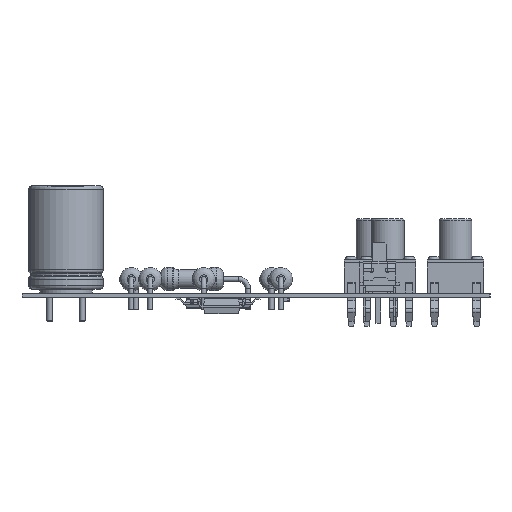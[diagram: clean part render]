
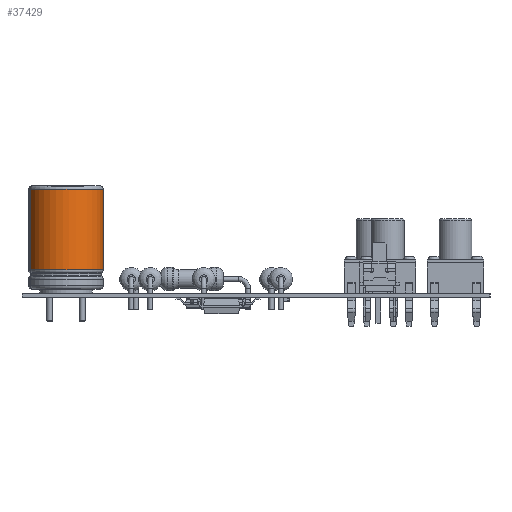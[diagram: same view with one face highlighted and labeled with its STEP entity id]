
A CAD part, left-side view. The second image highlights one B-rep face of the part: STEP entity #37429.
In plain terms, the highlighted cylindrical face has radius 4 mm (diameter 8 mm), a partial arc.
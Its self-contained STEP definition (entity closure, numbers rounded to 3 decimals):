
#37399 = EDGE_CURVE('',#37400,#37402,#37404,.T.);
#37400 = VERTEX_POINT('',#37401);
#37401 = CARTESIAN_POINT('',(3.864,1.035,11.1));
#37402 = VERTEX_POINT('',#37403);
#37403 = CARTESIAN_POINT('',(3.864,-1.035,11.1));
#37404 = CIRCLE('',#37405,4.);
#37405 = AXIS2_PLACEMENT_3D('',#37406,#37407,#37408);
#37406 = CARTESIAN_POINT('',(0.,0.,11.1));
#37407 = DIRECTION('',(0.,0.,1.));
#37408 = DIRECTION('',(0.966,0.259,0.));
#37429 = ADVANCED_FACE('',(#37430),#37456,.T.);
#37430 = FACE_BOUND('',#37431,.T.);
#37431 = EDGE_LOOP('',(#37432,#37440,#37449,#37455));
#37432 = ORIENTED_EDGE('',*,*,#37433,.T.);
#37433 = EDGE_CURVE('',#37400,#37434,#37436,.T.);
#37434 = VERTEX_POINT('',#37435);
#37435 = CARTESIAN_POINT('',(3.864,1.035,2.5));
#37436 = LINE('',#37437,#37438);
#37437 = CARTESIAN_POINT('',(3.864,1.035,11.1));
#37438 = VECTOR('',#37439,1.);
#37439 = DIRECTION('',(0.,0.,-1.));
#37440 = ORIENTED_EDGE('',*,*,#37441,.T.);
#37441 = EDGE_CURVE('',#37434,#37442,#37444,.T.);
#37442 = VERTEX_POINT('',#37443);
#37443 = CARTESIAN_POINT('',(3.864,-1.035,2.5));
#37444 = CIRCLE('',#37445,4.);
#37445 = AXIS2_PLACEMENT_3D('',#37446,#37447,#37448);
#37446 = CARTESIAN_POINT('',(0.,0.,2.5));
#37447 = DIRECTION('',(0.,0.,1.));
#37448 = DIRECTION('',(0.966,0.259,0.));
#37449 = ORIENTED_EDGE('',*,*,#37450,.F.);
#37450 = EDGE_CURVE('',#37402,#37442,#37451,.T.);
#37451 = LINE('',#37452,#37453);
#37452 = CARTESIAN_POINT('',(3.864,-1.035,11.1));
#37453 = VECTOR('',#37454,1.);
#37454 = DIRECTION('',(0.,0.,-1.));
#37455 = ORIENTED_EDGE('',*,*,#37399,.F.);
#37456 = CYLINDRICAL_SURFACE('',#37457,4.);
#37457 = AXIS2_PLACEMENT_3D('',#37458,#37459,#37460);
#37458 = CARTESIAN_POINT('',(0.,0.,11.1));
#37459 = DIRECTION('',(0.,0.,-1.));
#37460 = DIRECTION('',(0.966,0.259,0.));
